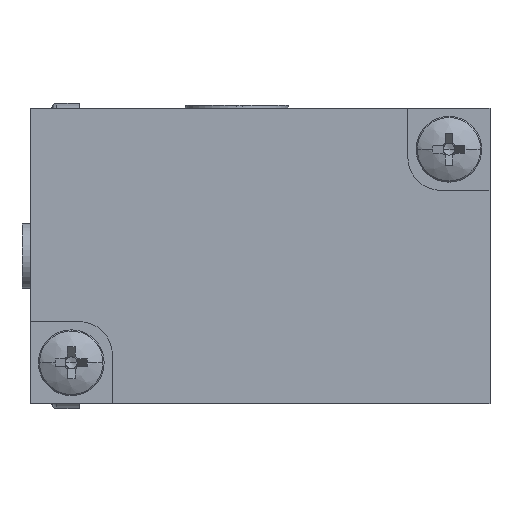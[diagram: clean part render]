
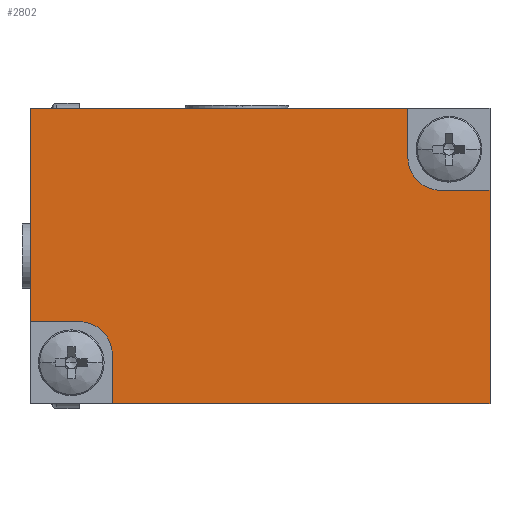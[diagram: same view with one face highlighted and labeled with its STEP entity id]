
A CAD part, left-side view. The second image highlights one B-rep face of the part: STEP entity #2802.
In plain terms, the highlighted planar face has unit normal (-1, 0, 0).
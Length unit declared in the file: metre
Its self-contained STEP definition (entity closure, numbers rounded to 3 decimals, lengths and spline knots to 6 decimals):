
#142 = DIRECTION ( 'NONE',  ( 1., 0., 0. ) ) ;
#198 = VERTEX_POINT ( 'NONE', #4356 ) ;
#218 = DIRECTION ( 'NONE',  ( 0., 0., -1. ) ) ;
#264 = PLANE ( 'NONE',  #10136 ) ;
#306 = VECTOR ( 'NONE', #12100, 1. ) ;
#373 = LINE ( 'NONE', #11837, #10182 ) ;
#401 = CARTESIAN_POINT ( 'NONE',  ( -0.009, 0.003, 0.006 ) ) ;
#431 = DIRECTION ( 'NONE',  ( -1., 0., 0. ) ) ;
#468 = DIRECTION ( 'NONE',  ( 0., 0., -1. ) ) ;
#759 = CIRCLE ( 'NONE', #3950, 0.002 ) ;
#789 = LINE ( 'NONE', #942, #3128 ) ;
#888 = EDGE_CURVE ( 'NONE', #6163, #5920, #11854, .T. ) ;
#942 = CARTESIAN_POINT ( 'NONE',  ( -0.009, 0., 0. ) ) ;
#978 = ORIENTED_EDGE ( 'NONE', *, *, #10558, .F. ) ;
#1056 = ORIENTED_EDGE ( 'NONE', *, *, #10715, .F. ) ;
#1061 = EDGE_CURVE ( 'NONE', #5597, #1821, #373, .T. ) ;
#1436 = CARTESIAN_POINT ( 'NONE',  ( -0.009, 0.014, -0.004 ) ) ;
#1565 = DIRECTION ( 'NONE',  ( 0., 1., 0. ) ) ;
#1821 = VERTEX_POINT ( 'NONE', #3652 ) ;
#1877 = DIRECTION ( 'NONE',  ( 0., 0., 1. ) ) ;
#1962 = LINE ( 'NONE', #1436, #11972 ) ;
#2006 = CARTESIAN_POINT ( 'NONE',  ( -0.009, 0., 0.004 ) ) ;
#2144 = CARTESIAN_POINT ( 'NONE',  ( -0.009, 0.028, 0.009 ) ) ;
#2389 = LINE ( 'NONE', #6003, #9729 ) ;
#2511 = EDGE_CURVE ( 'NONE', #8522, #1821, #1962, .T. ) ;
#2563 = ORIENTED_EDGE ( 'NONE', *, *, #3612, .T. ) ;
#2802 = ADVANCED_FACE ( 'NONE', ( #6261 ), #264, .F. ) ;
#3088 = ORIENTED_EDGE ( 'NONE', *, *, #4170, .F. ) ;
#3128 = VECTOR ( 'NONE', #1877, 1. ) ;
#3384 = DIRECTION ( 'NONE',  ( -1., 0., 0. ) ) ;
#3612 = EDGE_CURVE ( 'NONE', #11252, #5597, #8963, .T. ) ;
#3652 = CARTESIAN_POINT ( 'NONE',  ( -0.009, 0.028, -0.004 ) ) ;
#3950 = AXIS2_PLACEMENT_3D ( 'NONE', #401, #431, #468 ) ;
#3951 = CARTESIAN_POINT ( 'NONE',  ( -0.009, 0.023, -0.006 ) ) ;
#4170 = EDGE_CURVE ( 'NONE', #9290, #5920, #759, .T. ) ;
#4356 = CARTESIAN_POINT ( 'NONE',  ( -0.009, 0., -0.009 ) ) ;
#4396 = CARTESIAN_POINT ( 'NONE',  ( -0.009, 0.023, -0.009 ) ) ;
#4944 = DIRECTION ( 'NONE',  ( 0., 0., 1. ) ) ;
#4957 = CARTESIAN_POINT ( 'NONE',  ( -0.009, 0.005, 0.0075 ) ) ;
#5004 = EDGE_CURVE ( 'NONE', #198, #10164, #8179, .T. ) ;
#5037 = ORIENTED_EDGE ( 'NONE', *, *, #5004, .F. ) ;
#5597 = VERTEX_POINT ( 'NONE', #2144 ) ;
#5920 = VERTEX_POINT ( 'NONE', #10260 ) ;
#6003 = CARTESIAN_POINT ( 'NONE',  ( -0.009, 0.023, 0. ) ) ;
#6163 = VERTEX_POINT ( 'NONE', #2006 ) ;
#6261 = FACE_OUTER_BOUND ( 'NONE', #11637, .T. ) ;
#6477 = CARTESIAN_POINT ( 'NONE',  ( -0.009, 0.005, 0.009 ) ) ;
#6856 = ORIENTED_EDGE ( 'NONE', *, *, #9700, .T. ) ;
#6985 = ORIENTED_EDGE ( 'NONE', *, *, #2511, .F. ) ;
#7112 = ORIENTED_EDGE ( 'NONE', *, *, #7558, .T. ) ;
#7498 = LINE ( 'NONE', #4957, #9177 ) ;
#7558 = EDGE_CURVE ( 'NONE', #9290, #11252, #7498, .T. ) ;
#7925 = CARTESIAN_POINT ( 'NONE',  ( -0.009, 0.025, -0.004 ) ) ;
#8179 = LINE ( 'NONE', #11804, #306 ) ;
#8181 = ORIENTED_EDGE ( 'NONE', *, *, #1061, .T. ) ;
#8222 = CIRCLE ( 'NONE', #11265, 0.002 ) ;
#8459 = VERTEX_POINT ( 'NONE', #3951 ) ;
#8522 = VERTEX_POINT ( 'NONE', #7925 ) ;
#8963 = LINE ( 'NONE', #9584, #10850 ) ;
#9164 = CARTESIAN_POINT ( 'NONE',  ( -0.009, 0.025, -0.006 ) ) ;
#9177 = VECTOR ( 'NONE', #4944, 1. ) ;
#9214 = DIRECTION ( 'NONE',  ( 0., 0., -1. ) ) ;
#9290 = VERTEX_POINT ( 'NONE', #9960 ) ;
#9452 = VECTOR ( 'NONE', #10038, 1. ) ;
#9584 = CARTESIAN_POINT ( 'NONE',  ( -0.009, 0.014, 0.009 ) ) ;
#9700 = EDGE_CURVE ( 'NONE', #198, #6163, #789, .T. ) ;
#9729 = VECTOR ( 'NONE', #11640, 1. ) ;
#9801 = DIRECTION ( 'NONE',  ( 0., 1., 0. ) ) ;
#9853 = CARTESIAN_POINT ( 'NONE',  ( -0.009, 0.0015, 0.004 ) ) ;
#9960 = CARTESIAN_POINT ( 'NONE',  ( -0.009, 0.005, 0.006 ) ) ;
#10038 = DIRECTION ( 'NONE',  ( 0., 1., 0. ) ) ;
#10109 = DIRECTION ( 'NONE',  ( 0., 0., -1. ) ) ;
#10136 = AXIS2_PLACEMENT_3D ( 'NONE', #12090, #142, #218 ) ;
#10164 = VERTEX_POINT ( 'NONE', #4396 ) ;
#10182 = VECTOR ( 'NONE', #9214, 1. ) ;
#10260 = CARTESIAN_POINT ( 'NONE',  ( -0.009, 0.003, 0.004 ) ) ;
#10558 = EDGE_CURVE ( 'NONE', #10164, #8459, #2389, .T. ) ;
#10715 = EDGE_CURVE ( 'NONE', #8459, #8522, #8222, .T. ) ;
#10850 = VECTOR ( 'NONE', #9801, 1. ) ;
#11252 = VERTEX_POINT ( 'NONE', #6477 ) ;
#11265 = AXIS2_PLACEMENT_3D ( 'NONE', #9164, #3384, #10109 ) ;
#11637 = EDGE_LOOP ( 'NONE', ( #12027, #3088, #7112, #2563, #8181, #6985, #1056, #978, #5037, #6856 ) ) ;
#11640 = DIRECTION ( 'NONE',  ( 0., 0., 1. ) ) ;
#11804 = CARTESIAN_POINT ( 'NONE',  ( -0.009, 0.014, -0.009 ) ) ;
#11837 = CARTESIAN_POINT ( 'NONE',  ( -0.009, 0.028, 0. ) ) ;
#11854 = LINE ( 'NONE', #9853, #9452 ) ;
#11972 = VECTOR ( 'NONE', #1565, 1. ) ;
#12027 = ORIENTED_EDGE ( 'NONE', *, *, #888, .T. ) ;
#12090 = CARTESIAN_POINT ( 'NONE',  ( -0.009, 0., 0.009 ) ) ;
#12100 = DIRECTION ( 'NONE',  ( 0., 1., 0. ) ) ;
